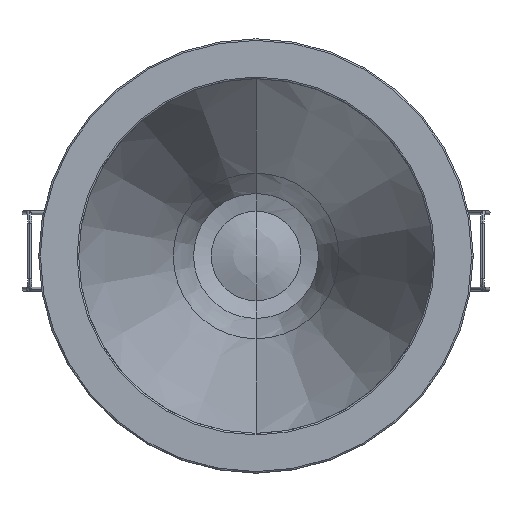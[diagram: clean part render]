
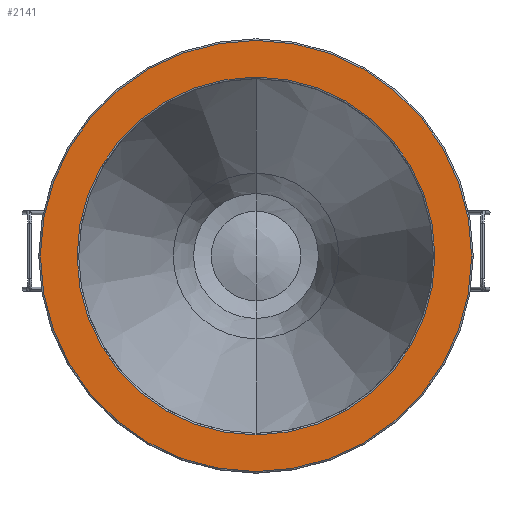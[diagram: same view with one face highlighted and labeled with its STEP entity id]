
A CAD part, front view. The second image highlights one B-rep face of the part: STEP entity #2141.
In plain terms, the highlighted planar face has unit normal (0, -1, 0).
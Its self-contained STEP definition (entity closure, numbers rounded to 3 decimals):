
#21=CARTESIAN_POINT('',(0.,0.,0.));
#22=DIRECTION('',(0.,1.,0.));
#23=DIRECTION('',(-1.,0.,0.));
#24=AXIS2_PLACEMENT_3D('',#21,#22,#23);
#30=CARTESIAN_POINT('',(0.,0.,0.));
#31=DIRECTION('',(0.,1.,0.));
#32=DIRECTION('',(-1.,0.,0.005));
#33=AXIS2_PLACEMENT_3D('',#30,#31,#32);
#38=CARTESIAN_POINT('',(0.,0.,0.));
#39=DIRECTION('',(0.,1.,0.));
#40=DIRECTION('',(1.,0.,0.));
#41=AXIS2_PLACEMENT_3D('',#38,#39,#40);
#46=CARTESIAN_POINT('',(0.,0.,0.));
#47=DIRECTION('',(0.,1.,0.));
#48=DIRECTION('',(1.,0.,-0.005));
#49=AXIS2_PLACEMENT_3D('',#46,#47,#48);
#54=CARTESIAN_POINT('',(0.,0.,0.));
#55=DIRECTION('',(0.,-1.,0.));
#56=DIRECTION('',(0.,0.,-1.));
#57=AXIS2_PLACEMENT_3D('',#54,#55,#56);
#62=CARTESIAN_POINT('',(0.,0.,0.));
#63=DIRECTION('',(0.,-1.,0.));
#64=DIRECTION('',(0.007,0.,-1.));
#65=AXIS2_PLACEMENT_3D('',#62,#63,#64);
#70=CARTESIAN_POINT('',(0.,0.,0.));
#71=DIRECTION('',(0.,-1.,0.));
#72=DIRECTION('',(0.,0.,1.));
#73=AXIS2_PLACEMENT_3D('',#70,#71,#72);
#78=CARTESIAN_POINT('',(0.,0.,0.));
#79=DIRECTION('',(0.,-1.,0.));
#80=DIRECTION('',(-0.007,0.,1.));
#81=AXIS2_PLACEMENT_3D('',#78,#79,#80);
#1856=CARTESIAN_POINT('',(-40.799,0.,0.217));
#1857=CARTESIAN_POINT('',(40.8,0.,0.));
#1858=VERTEX_POINT('',#1856);
#1859=VERTEX_POINT('',#1857);
#1860=CARTESIAN_POINT('',(-40.8,0.,0.));
#1861=VERTEX_POINT('',#1860);
#1862=CARTESIAN_POINT('',(40.799,0.,-0.217));
#1863=VERTEX_POINT('',#1862);
#1864=CARTESIAN_POINT('',(0.22,0.,-33.853));
#1865=CARTESIAN_POINT('',(0.,0.,33.854));
#1866=VERTEX_POINT('',#1864);
#1867=VERTEX_POINT('',#1865);
#1868=CARTESIAN_POINT('',(0.,0.,-33.854));
#1869=VERTEX_POINT('',#1868);
#1870=CARTESIAN_POINT('',(-0.22,0.,33.853));
#1871=VERTEX_POINT('',#1870);
#2116=CARTESIAN_POINT('',(0.,0.,0.));
#2117=DIRECTION('',(0.,1.,0.));
#2118=DIRECTION('',(1.,0.,0.));
#2119=AXIS2_PLACEMENT_3D('',#2116,#2117,#2118);
#2120=PLANE('',#2119);
#2122=ORIENTED_EDGE('',*,*,#2121,.T.);
#2124=ORIENTED_EDGE('',*,*,#2123,.T.);
#2126=ORIENTED_EDGE('',*,*,#2125,.T.);
#2128=ORIENTED_EDGE('',*,*,#2127,.T.);
#2129=EDGE_LOOP('',(#2122,#2124,#2126,#2128));
#2130=FACE_OUTER_BOUND('',#2129,.F.);
#2132=ORIENTED_EDGE('',*,*,#2131,.T.);
#2134=ORIENTED_EDGE('',*,*,#2133,.T.);
#2136=ORIENTED_EDGE('',*,*,#2135,.T.);
#2138=ORIENTED_EDGE('',*,*,#2137,.T.);
#2139=EDGE_LOOP('',(#2132,#2134,#2136,#2138));
#2140=FACE_BOUND('',#2139,.F.);
#2141=ADVANCED_FACE('',(#2130,#2140),#2120,.F.);
#25=CIRCLE('',#24,40.8);
#34=CIRCLE('',#33,40.8);
#42=CIRCLE('',#41,40.8);
#50=CIRCLE('',#49,40.8);
#58=CIRCLE('',#57,33.854);
#66=CIRCLE('',#65,33.854);
#74=CIRCLE('',#73,33.854);
#82=CIRCLE('',#81,33.854);
#2121=EDGE_CURVE('',#1861,#1858,#25,.T.);
#2123=EDGE_CURVE('',#1858,#1859,#34,.T.);
#2125=EDGE_CURVE('',#1859,#1863,#42,.T.);
#2127=EDGE_CURVE('',#1863,#1861,#50,.T.);
#2131=EDGE_CURVE('',#1869,#1866,#58,.T.);
#2133=EDGE_CURVE('',#1866,#1867,#66,.T.);
#2135=EDGE_CURVE('',#1867,#1871,#74,.T.);
#2137=EDGE_CURVE('',#1871,#1869,#82,.T.);
